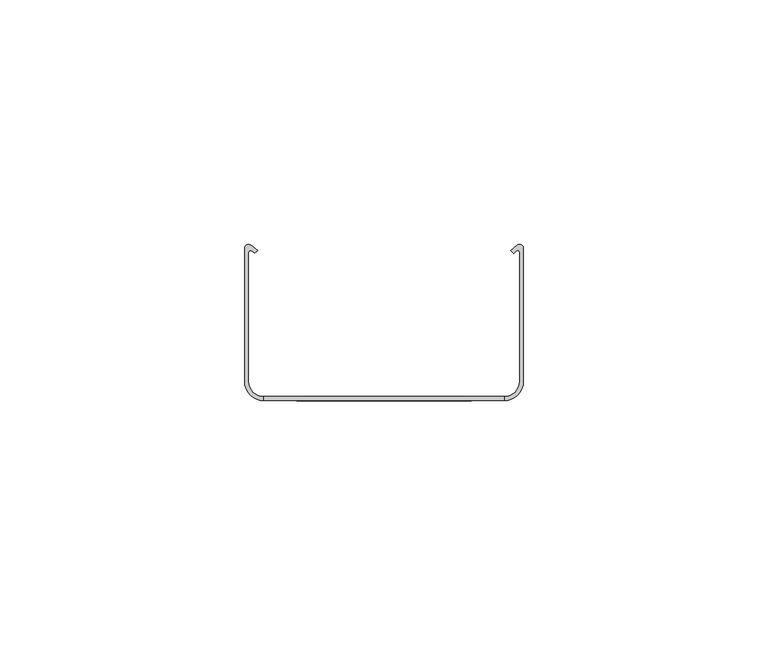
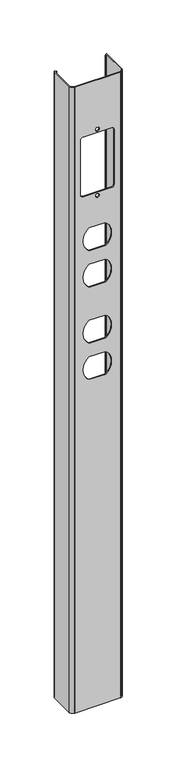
"""IFC4 building model written with IfcOpenShell, lengths in millimetres: proxy geometry, Accessory-Wiremold-Add-on_Power_Cover : 25DTP-L."""

from ifc_helpers import new_model, si_unit, point, frame, frame_2d, origin, origin_with_axes, place, context, project, spatial, polyline, circle_curve, trimmed, segment, composite_curve, outline, extrude, source, transform, mapped, element, save


def electrical_fixtures_3ee93755(model_context):
    return source(origin(), model_context, "Body", "SweptSolid", [
        extrude(outline(polyline([(711.0, 24.575), (711.0, -24.575), (0.0, -24.575), (0.0, 24.575), (711.0, 24.575)]), holes=[composite_curve([segment(trimmed(circle_curve(frame_2d((654.6262201, 0.0)), 2.0), [point((654.6262201, 2.0))], [point((654.6262201, -2.0))], True, "CARTESIAN"), True, "CONTINUOUS"), segment(trimmed(circle_curve(frame_2d((654.6262201, 0.0)), 2.0), [point((654.6262201, -2.0))], [point((654.6262201, 2.0))], True, "CARTESIAN"), True, "CONTINUOUS")], self_intersect=False), composite_curve([segment(trimmed(circle_curve(frame_2d((579.3788384, 0.0)), 1.9601095), [point((579.3788384, -1.9601095))], [point((579.3788384, 1.9601095))], True, "CARTESIAN"), True, "CONTINUOUS"), segment(trimmed(circle_curve(frame_2d((579.3788384, 0.0)), 1.9601095), [point((579.3788384, 1.9601095))], [point((579.3788384, -1.9601095))], True, "CARTESIAN"), True, "CONTINUOUS")], self_intersect=False), composite_curve([segment(trimmed(circle_curve(frame_2d((585.7505652, -15.3313878)), 2.5160157), [point((583.2345495, -15.3313878))], [point((585.7505652, -17.8474035))], True, "CARTESIAN"), True, "CONTINUOUS"), segment(polyline([(585.7505652, -17.8474035), (648.2702847, -17.8474035)]), True, "CONTINUOUS"), segment(trimmed(circle_curve(frame_2d((648.2702847, -15.311744)), 2.5356595), [point((648.2702847, -17.8474035))], [point((650.8059442, -15.311744))], True, "CARTESIAN"), True, "CONTINUOUS"), segment(polyline([(650.8059442, -15.311744), (650.8059442, 15.331726)]), True, "CONTINUOUS"), segment(trimmed(circle_curve(frame_2d((648.2902666, 15.331726)), 2.5156776), [point((650.8059442, 15.331726))], [point((648.2902666, 17.8474035))], True, "CARTESIAN"), True, "CONTINUOUS"), segment(polyline([(648.2902666, 17.8474035), (585.7345495, 17.8474035)]), True, "CONTINUOUS"), segment(trimmed(circle_curve(frame_2d((585.7345495, 15.3474035)), 2.5), [point((585.7345495, 17.8474035))], [point((583.2345495, 15.3474035))], True, "CARTESIAN"), True, "CONTINUOUS"), segment(polyline([(583.2345495, 15.3474035), (583.2345495, -15.3313878)]), True, "CONTINUOUS")], self_intersect=False), composite_curve([segment(polyline([(531.5725156, -15.092834), (533.5798687, -15.092834)]), True, "CONTINUOUS"), segment(trimmed(circle_curve(frame_2d((533.5798687, -0.9967117)), 14.0961223), [point((533.5798687, -15.092834))], [point((545.4490574, -8.6008568))], True, "CARTESIAN"), True, "CONTINUOUS"), segment(polyline([(545.4490574, -8.6008568), (545.4490574, 8.6011223)]), True, "CONTINUOUS"), segment(trimmed(circle_curve(frame_2d((533.6219727, 0.9958893)), 14.0612766), [point((545.4490574, 8.6011223))], [point((533.6219727, 15.057166))], True, "CARTESIAN"), True, "CONTINUOUS"), segment(polyline([(533.6219727, 15.057166), (531.5346852, 15.057166)]), True, "CONTINUOUS"), segment(trimmed(circle_curve(frame_2d((531.5346852, 0.982166)), 14.075), [point((531.5346852, 15.057166))], [point((519.7848336, 8.7311408))], True, "CARTESIAN"), True, "CONTINUOUS"), segment(polyline([(519.7848336, 8.7311408), (519.7848336, -8.7313592)]), True, "CONTINUOUS"), segment(trimmed(circle_curve(frame_2d((531.5725156, -0.9909304)), 14.1019036), [point((519.7848336, -8.7313592))], [point((531.5725156, -15.092834))], True, "CARTESIAN"), True, "CONTINUOUS")], self_intersect=False), composite_curve([segment(polyline([(490.1725156, -15.092834), (492.1798687, -15.092834)]), True, "CONTINUOUS"), segment(trimmed(circle_curve(frame_2d((492.1798687, -0.9967117)), 14.0961223), [point((492.1798687, -15.092834))], [point((504.0490574, -8.6008568))], True, "CARTESIAN"), True, "CONTINUOUS"), segment(polyline([(504.0490574, -8.6008568), (504.0490574, 8.6011223)]), True, "CONTINUOUS"), segment(trimmed(circle_curve(frame_2d((492.2219727, 0.9958893)), 14.0612766), [point((504.0490574, 8.6011223))], [point((492.2219727, 15.057166))], True, "CARTESIAN"), True, "CONTINUOUS"), segment(polyline([(492.2219727, 15.057166), (490.1346852, 15.057166)]), True, "CONTINUOUS"), segment(trimmed(circle_curve(frame_2d((490.1346852, 0.982166)), 14.075), [point((490.1346852, 15.057166))], [point((478.3848336, 8.7311408))], True, "CARTESIAN"), True, "CONTINUOUS"), segment(polyline([(478.3848336, 8.7311408), (478.3848336, -8.7313592)]), True, "CONTINUOUS"), segment(trimmed(circle_curve(frame_2d((490.1725156, -0.9909304)), 14.1019036), [point((478.3848336, -8.7313592))], [point((490.1725156, -15.092834))], True, "CARTESIAN"), True, "CONTINUOUS")], self_intersect=False), composite_curve([segment(polyline([(426.5872895, -15.092834), (428.5946426, -15.092834)]), True, "CONTINUOUS"), segment(trimmed(circle_curve(frame_2d((428.5946426, -0.9967117)), 14.0961223), [point((428.5946426, -15.092834))], [point((440.4638314, -8.6008568))], True, "CARTESIAN"), True, "CONTINUOUS"), segment(polyline([(440.4638314, -8.6008568), (440.4638314, 8.6011223)]), True, "CONTINUOUS"), segment(trimmed(circle_curve(frame_2d((428.6367467, 0.9958893)), 14.0612766), [point((440.4638314, 8.6011223))], [point((428.6367467, 15.057166))], True, "CARTESIAN"), True, "CONTINUOUS"), segment(polyline([(428.6367467, 15.057166), (426.5494592, 15.057166)]), True, "CONTINUOUS"), segment(trimmed(circle_curve(frame_2d((426.5494592, 0.982166)), 14.075), [point((426.5494592, 15.057166))], [point((414.7996075, 8.7311408))], True, "CARTESIAN"), True, "CONTINUOUS"), segment(polyline([(414.7996075, 8.7311408), (414.7996075, -8.7313592)]), True, "CONTINUOUS"), segment(trimmed(circle_curve(frame_2d((426.5872895, -0.9909304)), 14.1019036), [point((414.7996075, -8.7313592))], [point((426.5872895, -15.092834))], True, "CARTESIAN"), True, "CONTINUOUS")], self_intersect=False), composite_curve([segment(polyline([(385.1872895, -15.092834), (387.1946426, -15.092834)]), True, "CONTINUOUS"), segment(trimmed(circle_curve(frame_2d((387.1946426, -0.9967117)), 14.0961223), [point((387.1946426, -15.092834))], [point((399.0638314, -8.6008568))], True, "CARTESIAN"), True, "CONTINUOUS"), segment(polyline([(399.0638314, -8.6008568), (399.0638314, 8.6011223)]), True, "CONTINUOUS"), segment(trimmed(circle_curve(frame_2d((387.2367467, 0.9958893)), 14.0612766), [point((399.0638314, 8.6011223))], [point((387.2367467, 15.057166))], True, "CARTESIAN"), True, "CONTINUOUS"), segment(polyline([(387.2367467, 15.057166), (385.1494592, 15.057166)]), True, "CONTINUOUS"), segment(trimmed(circle_curve(frame_2d((385.1494592, 0.982166)), 14.075), [point((385.1494592, 15.057166))], [point((373.3996075, 8.7311408))], True, "CARTESIAN"), True, "CONTINUOUS"), segment(polyline([(373.3996075, 8.7311408), (373.3996075, -8.7313592)]), True, "CONTINUOUS"), segment(trimmed(circle_curve(frame_2d((385.1872895, -0.9909304)), 14.1019036), [point((373.3996075, -8.7313592))], [point((385.1872895, -15.092834))], True, "CARTESIAN"), True, "CONTINUOUS")], self_intersect=False)]), frame((0.0, 0.0, 0.0), z_axis=(0.0, 1.0, 0.0), x_axis=(0.0, 0.0, 1.0)), (0.0, 0.0, 1.0), 0.8),
        extrude(outline(composite_curve([segment(trimmed(circle_curve(frame_2d((-27.7048045, 31.1398141)), 0.7951955), [point((-28.5, 31.1398141))], [point((-27.2394932, 31.7846563))], False, "CARTESIAN"), True, "CONTINUOUS"), segment(polyline([(-27.2394932, 31.7846563), (-25.7944589, 30.7419348), (-26.3830792, 30.1533145), (-27.0991279, 30.6700076)]), True, "CONTINUOUS"), segment(trimmed(circle_curve(frame_2d((-27.3209375, 30.3626173)), 0.3790625), [point((-27.0991279, 30.6700076))], [point((-27.7, 30.3626173))], True, "CARTESIAN"), True, "CONTINUOUS"), segment(polyline([(-27.7, 30.3626173), (-27.7, 3.925)]), True, "CONTINUOUS"), segment(trimmed(circle_curve(frame_2d((-24.575, 3.925)), 3.125), [point((-27.7, 3.925))], [point((-24.575, 0.8))], True, "CARTESIAN"), True, "CONTINUOUS"), segment(polyline([(-24.575, 0.8), (-24.575, 0.0)]), True, "CONTINUOUS"), segment(trimmed(circle_curve(frame_2d((-24.575, 3.925)), 3.925), [point((-24.575, 0.0))], [point((-28.5, 3.925))], False, "CARTESIAN"), True, "CONTINUOUS"), segment(polyline([(-28.5, 3.925), (-28.5, 31.1398141)]), True, "CONTINUOUS")], self_intersect=False)), origin_with_axes(), (0.0, 0.0, 1.0), 711.0),
        extrude(outline(composite_curve([segment(trimmed(circle_curve(frame_2d((24.575, 3.925)), 3.925), [point((28.5, 3.925))], [point((24.575, 0.0))], False, "CARTESIAN"), True, "CONTINUOUS"), segment(polyline([(24.575, 0.0), (24.575, 0.8)]), True, "CONTINUOUS"), segment(trimmed(circle_curve(frame_2d((24.575, 3.925)), 3.125), [point((24.575, 0.8))], [point((27.7, 3.925))], True, "CARTESIAN"), True, "CONTINUOUS"), segment(polyline([(27.7, 3.925), (27.7, 30.4180475)]), True, "CONTINUOUS"), segment(trimmed(circle_curve(frame_2d((27.3467453, 30.4180475)), 0.3532547), [point((27.7, 30.4180475))], [point((27.0969566, 30.6678363))], True, "CARTESIAN"), True, "CONTINUOUS"), segment(polyline([(27.0969566, 30.6678363), (26.557757, 30.0536367), (25.8694589, 30.6578866), (27.2394932, 31.7846563)]), True, "CONTINUOUS"), segment(trimmed(circle_curve(frame_2d((27.7261879, 31.1830638)), 0.7738121), [point((27.2394932, 31.7846563))], [point((28.5, 31.1830638))], False, "CARTESIAN"), True, "CONTINUOUS"), segment(polyline([(28.5, 31.1830638), (28.5, 3.925)]), True, "CONTINUOUS")], self_intersect=False)), origin_with_axes(), (0.0, 0.0, 1.0), 711.0),
    ])


if __name__ == "__main__":
    model = new_model("IFC4")
    model_context = context("Model", 3, world=origin())
    ifc_project = project(units=[si_unit("LENGTHUNIT", "METRE", prefix="MILLI")], contexts=[model_context])
    site = spatial("IfcSite", under=ifc_project)
    building = spatial("IfcBuilding", under=site)
    placement = place(None, origin())
    electrical_fixtures_shape = electrical_fixtures_3ee93755(model_context)
    element("IfcBuildingElementProxy", 1, Name="Accessory-Wiremold-Add-on_Power_Cover : 25DTP-L", ObjectType="Accessory-Wiremold-Add-on_Power_Cover : 25DTP-L", at=placement, inside=building, context=model_context, shape_type="MappedRepresentation", body=[
        mapped(electrical_fixtures_shape, transform((0.0, 0.0, 0.0), x_axis=(1.0, 0.0, 0.0), y_axis=(0.0, 1.0, 0.0), z_axis=(0.0, 0.0, 1.0))),
    ])
    save(model, "model.ifc")
